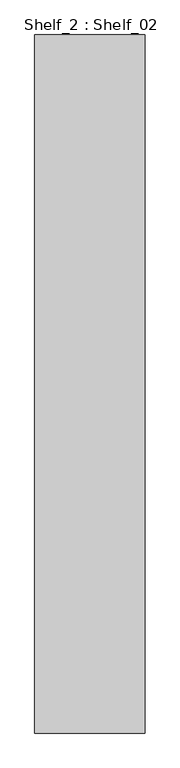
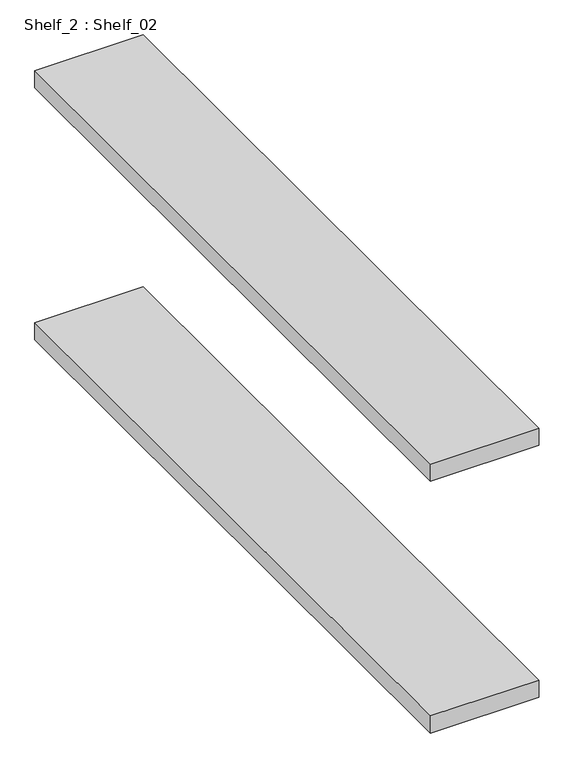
"""IFC4 building model written with IfcOpenShell, lengths in millimetres: furniture geometry, Shelf_2 : Shelf_02."""

from ifc_helpers import new_model, si_unit, frame, origin, place, context, project, spatial, polyline, outline, extrude, source, transform, mapped, element, save


def shelf_2_shelf_02_fa14b9a0(model_context):
    return source(origin(), model_context, "Body", "SweptSolid", [
        extrude(outline(polyline([(-4699.8450078, 3203.0198069), (-4699.8450078, 1695.5198069), (-4938.0019919, 1695.5198069), (-4938.0019919, 3203.0198069), (-4699.8450078, 3203.0198069)])), frame((0.0, 0.0, 5376.7248844), z_axis=(0.0, 0.0, 1.0), x_axis=(1.0, 0.0, 0.0)), (0.0, 0.0, 1.0), 39.825489),
        extrude(outline(polyline([(-4699.8450078, 3203.0198069), (-4699.8450078, 1695.5198069), (-4938.0019919, 1695.5198069), (-4938.0019919, 3203.0198069), (-4699.8450078, 3203.0198069)])), frame((0.0, 0.0, 4791.7248844), z_axis=(0.0, 0.0, 1.0), x_axis=(1.0, 0.0, 0.0)), (0.0, 0.0, 1.0), 39.825489),
    ])


if __name__ == "__main__":
    model = new_model("IFC4")
    model_context = context("Model", 3, world=origin())
    ifc_project = project(units=[si_unit("LENGTHUNIT", "METRE", prefix="MILLI")], contexts=[model_context])
    site = spatial("IfcSite", under=ifc_project)
    building = spatial("IfcBuilding", under=site)
    placement = place(None, origin())
    shelf_2_shelf_02_shape = shelf_2_shelf_02_fa14b9a0(model_context)
    element("IfcFurniture", 1, ObjectType="Shelf_2 : Shelf_02", at=placement, inside=building, context=model_context, shape_type="MappedRepresentation", body=[
        mapped(shelf_2_shelf_02_shape, transform((0.0, 0.0, 0.0), x_axis=(1.0, 0.0, 0.0), y_axis=(0.0, 1.0, 0.0), z_axis=(0.0, 0.0, 1.0))),
    ])
    save(model, "model.ifc")
